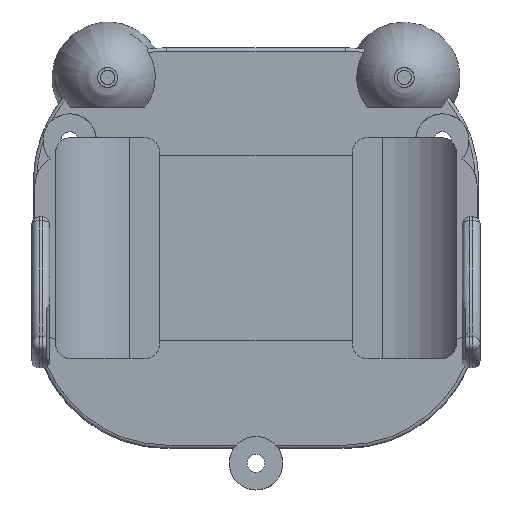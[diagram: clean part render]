
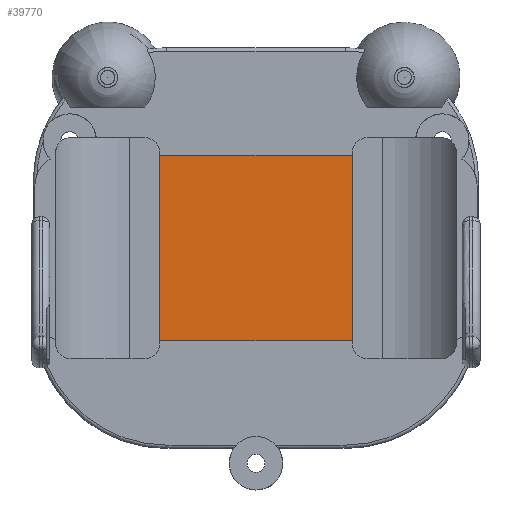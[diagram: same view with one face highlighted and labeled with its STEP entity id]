
A CAD part, top view. The second image highlights one B-rep face of the part: STEP entity #39770.
In plain terms, the highlighted planar face has unit normal (0, 0, 1).
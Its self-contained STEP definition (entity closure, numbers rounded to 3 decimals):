
#9649 = PLANE('',#9650);
#9650 = AXIS2_PLACEMENT_3D('',#9651,#9652,#9653);
#9651 = CARTESIAN_POINT('',(-29.8,-12.5,17.));
#9652 = DIRECTION('',(0.,1.,0.));
#9653 = DIRECTION('',(1.,0.,0.));
#36514 = VERTEX_POINT('',#36515);
#36515 = CARTESIAN_POINT('',(-13.,-12.5,18.4));
#36536 = EDGE_CURVE('',#36514,#36537,#36539,.T.);
#36537 = VERTEX_POINT('',#36538);
#36538 = CARTESIAN_POINT('',(13.,-12.5,18.4));
#36539 = SURFACE_CURVE('',#36540,(#36544,#36551),.PCURVE_S1.);
#36540 = LINE('',#36541,#36542);
#36541 = CARTESIAN_POINT('',(-29.8,-12.5,18.4));
#36542 = VECTOR('',#36543,1.);
#36543 = DIRECTION('',(1.,0.,0.));
#36544 = PCURVE('',#9649,#36545);
#36545 = DEFINITIONAL_REPRESENTATION('',(#36546),#36550);
#36546 = LINE('',#36547,#36548);
#36547 = CARTESIAN_POINT('',(0.,-1.4));
#36548 = VECTOR('',#36549,1.);
#36549 = DIRECTION('',(1.,0.));
#36550 = ( GEOMETRIC_REPRESENTATION_CONTEXT(2) 
PARAMETRIC_REPRESENTATION_CONTEXT() REPRESENTATION_CONTEXT('2D SPACE',''
  ) );
#36551 = PCURVE('',#36552,#36557);
#36552 = PLANE('',#36553);
#36553 = AXIS2_PLACEMENT_3D('',#36554,#36555,#36556);
#36554 = CARTESIAN_POINT('',(-25.115,14.5,18.4));
#36555 = DIRECTION('',(0.,0.,1.));
#36556 = DIRECTION('',(1.,0.,-0.));
#36557 = DEFINITIONAL_REPRESENTATION('',(#36558),#36562);
#36558 = LINE('',#36559,#36560);
#36559 = CARTESIAN_POINT('',(-4.685,-27.));
#36560 = VECTOR('',#36561,1.);
#36561 = DIRECTION('',(1.,0.));
#36562 = ( GEOMETRIC_REPRESENTATION_CONTEXT(2) 
PARAMETRIC_REPRESENTATION_CONTEXT() REPRESENTATION_CONTEXT('2D SPACE',''
  ) );
#36722 = PLANE('',#36723);
#36723 = AXIS2_PLACEMENT_3D('',#36724,#36725,#36726);
#36724 = CARTESIAN_POINT('',(-13.,-14.9,18.4));
#36725 = DIRECTION('',(1.,0.,0.));
#36726 = DIRECTION('',(0.,0.,1.));
#36960 = PLANE('',#36961);
#36961 = AXIS2_PLACEMENT_3D('',#36962,#36963,#36964);
#36962 = CARTESIAN_POINT('',(13.,-14.9,18.4));
#36963 = DIRECTION('',(1.,0.,0.));
#36964 = DIRECTION('',(0.,0.,1.));
#39084 = PLANE('',#39085);
#39085 = AXIS2_PLACEMENT_3D('',#39086,#39087,#39088);
#39086 = CARTESIAN_POINT('',(29.8,12.5,17.));
#39087 = DIRECTION('',(0.,-1.,0.));
#39088 = DIRECTION('',(-1.,0.,0.));
#39770 = ADVANCED_FACE('',(#39771),#36552,.T.);
#39771 = FACE_BOUND('',#39772,.T.);
#39772 = EDGE_LOOP('',(#39773,#39796,#39819,#39840));
#39773 = ORIENTED_EDGE('',*,*,#39774,.T.);
#39774 = EDGE_CURVE('',#36537,#39775,#39777,.T.);
#39775 = VERTEX_POINT('',#39776);
#39776 = CARTESIAN_POINT('',(13.,12.5,18.4));
#39777 = SURFACE_CURVE('',#39778,(#39782,#39789),.PCURVE_S1.);
#39778 = LINE('',#39779,#39780);
#39779 = CARTESIAN_POINT('',(13.,-14.9,18.4));
#39780 = VECTOR('',#39781,1.);
#39781 = DIRECTION('',(0.,1.,0.));
#39782 = PCURVE('',#36552,#39783);
#39783 = DEFINITIONAL_REPRESENTATION('',(#39784),#39788);
#39784 = LINE('',#39785,#39786);
#39785 = CARTESIAN_POINT('',(38.115,-29.4));
#39786 = VECTOR('',#39787,1.);
#39787 = DIRECTION('',(0.,1.));
#39788 = ( GEOMETRIC_REPRESENTATION_CONTEXT(2) 
PARAMETRIC_REPRESENTATION_CONTEXT() REPRESENTATION_CONTEXT('2D SPACE',''
  ) );
#39789 = PCURVE('',#36960,#39790);
#39790 = DEFINITIONAL_REPRESENTATION('',(#39791),#39795);
#39791 = LINE('',#39792,#39793);
#39792 = CARTESIAN_POINT('',(0.,0.));
#39793 = VECTOR('',#39794,1.);
#39794 = DIRECTION('',(0.,-1.));
#39795 = ( GEOMETRIC_REPRESENTATION_CONTEXT(2) 
PARAMETRIC_REPRESENTATION_CONTEXT() REPRESENTATION_CONTEXT('2D SPACE',''
  ) );
#39796 = ORIENTED_EDGE('',*,*,#39797,.T.);
#39797 = EDGE_CURVE('',#39775,#39798,#39800,.T.);
#39798 = VERTEX_POINT('',#39799);
#39799 = CARTESIAN_POINT('',(-13.,12.5,18.4));
#39800 = SURFACE_CURVE('',#39801,(#39805,#39812),.PCURVE_S1.);
#39801 = LINE('',#39802,#39803);
#39802 = CARTESIAN_POINT('',(29.8,12.5,18.4));
#39803 = VECTOR('',#39804,1.);
#39804 = DIRECTION('',(-1.,0.,0.));
#39805 = PCURVE('',#36552,#39806);
#39806 = DEFINITIONAL_REPRESENTATION('',(#39807),#39811);
#39807 = LINE('',#39808,#39809);
#39808 = CARTESIAN_POINT('',(54.915,-2.));
#39809 = VECTOR('',#39810,1.);
#39810 = DIRECTION('',(-1.,0.));
#39811 = ( GEOMETRIC_REPRESENTATION_CONTEXT(2) 
PARAMETRIC_REPRESENTATION_CONTEXT() REPRESENTATION_CONTEXT('2D SPACE',''
  ) );
#39812 = PCURVE('',#39084,#39813);
#39813 = DEFINITIONAL_REPRESENTATION('',(#39814),#39818);
#39814 = LINE('',#39815,#39816);
#39815 = CARTESIAN_POINT('',(0.,-1.4));
#39816 = VECTOR('',#39817,1.);
#39817 = DIRECTION('',(1.,0.));
#39818 = ( GEOMETRIC_REPRESENTATION_CONTEXT(2) 
PARAMETRIC_REPRESENTATION_CONTEXT() REPRESENTATION_CONTEXT('2D SPACE',''
  ) );
#39819 = ORIENTED_EDGE('',*,*,#39820,.F.);
#39820 = EDGE_CURVE('',#36514,#39798,#39821,.T.);
#39821 = SURFACE_CURVE('',#39822,(#39826,#39833),.PCURVE_S1.);
#39822 = LINE('',#39823,#39824);
#39823 = CARTESIAN_POINT('',(-13.,-14.9,18.4));
#39824 = VECTOR('',#39825,1.);
#39825 = DIRECTION('',(0.,1.,0.));
#39826 = PCURVE('',#36552,#39827);
#39827 = DEFINITIONAL_REPRESENTATION('',(#39828),#39832);
#39828 = LINE('',#39829,#39830);
#39829 = CARTESIAN_POINT('',(12.115,-29.4));
#39830 = VECTOR('',#39831,1.);
#39831 = DIRECTION('',(0.,1.));
#39832 = ( GEOMETRIC_REPRESENTATION_CONTEXT(2) 
PARAMETRIC_REPRESENTATION_CONTEXT() REPRESENTATION_CONTEXT('2D SPACE',''
  ) );
#39833 = PCURVE('',#36722,#39834);
#39834 = DEFINITIONAL_REPRESENTATION('',(#39835),#39839);
#39835 = LINE('',#39836,#39837);
#39836 = CARTESIAN_POINT('',(0.,0.));
#39837 = VECTOR('',#39838,1.);
#39838 = DIRECTION('',(0.,-1.));
#39839 = ( GEOMETRIC_REPRESENTATION_CONTEXT(2) 
PARAMETRIC_REPRESENTATION_CONTEXT() REPRESENTATION_CONTEXT('2D SPACE',''
  ) );
#39840 = ORIENTED_EDGE('',*,*,#36536,.T.);
